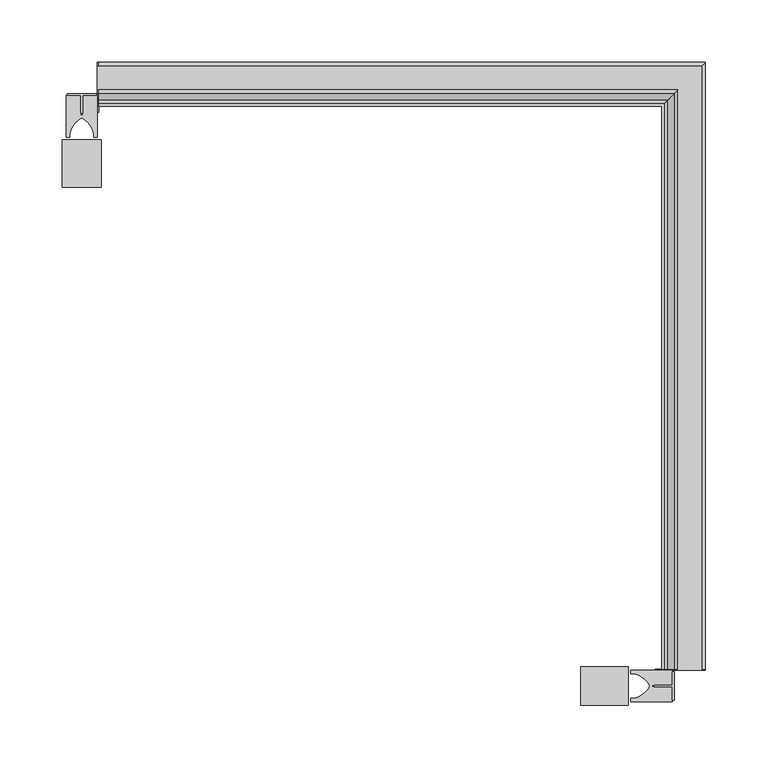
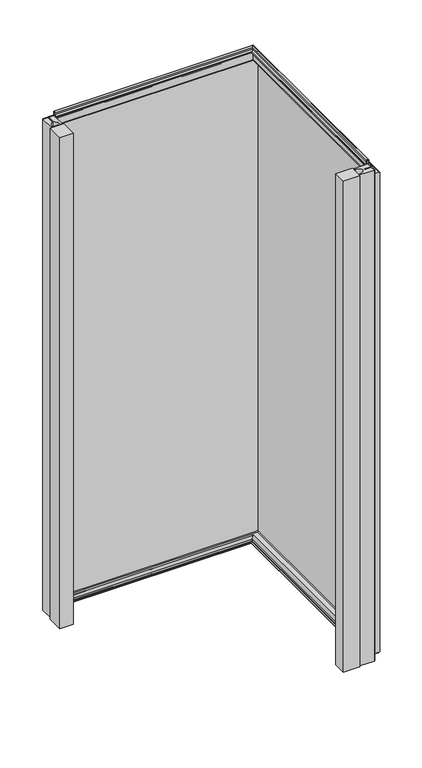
"""IFC4 building model written with IfcOpenShell, lengths in millimetres: plate geometry, Угловой модуль Fronttop : Угловой модуль Fronttop 100/1200."""

from ifc_helpers import new_model, si_unit, point, frame, frame_2d, origin, origin_with_axes, place, context, project, spatial, polyline, circle_curve, ellipse_curve, trimmed, segment, composite_curve, outline, extrude, source, transform, mapped, element, save
from ifc_brep_helpers import plane_surface, cylinder_surface, revolved_surface, advanced_brep


def plate_6557afd7(model_context):
    return source(origin(), model_context, "Body", "SolidModel", [
        extrude(outline(polyline([(225.0, -388.4948846), (225.0, -411.5051154), (223.5, -411.5051154), (223.5, -400.6502496), (209.0759655, -400.6502496), (209.0759655, -399.35), (223.5, -399.35), (223.5, -388.4948846), (225.0, -388.4948846)])), origin_with_axes(), (0.0, 0.0, 1.0), 1200.0),
        extrude(outline(composite_curve([segment(polyline([(223.5, -387.4998455), (223.5, -399.25), (207.5, -399.25), (207.5, -400.75), (223.5, -400.75), (223.5, -412.5001545), (190.0, -412.5001545), (190.0, -409.75), (192.5, -409.75)]), True, "CONTINUOUS"), segment(trimmed(circle_curve(frame_2d((189.3183984, -391.9661979)), 18.0661619), [point((192.5, -409.75))], [point((205.5, -400.0))], True, "CARTESIAN"), True, "CONTINUOUS"), segment(trimmed(circle_curve(frame_2d((189.3183984, -408.0338021)), 18.0661619), [point((205.5, -400.0))], [point((192.5, -390.25))], True, "CARTESIAN"), True, "CONTINUOUS"), segment(polyline([(192.5, -390.25), (190.0, -390.25), (190.0, -387.4998455), (223.5, -387.4998455)]), True, "CONTINUOUS")], self_intersect=False)), origin_with_axes(), (0.0, 0.0, 1.0), 1200.0),
        extrude(outline(polyline([(150.0, -415.5), (150.0, -384.5), (188.0, -384.5), (188.0, -415.5), (150.0, -415.5)])), origin_with_axes(), (0.0, 0.0, 1.0), 1200.0),
        extrude(outline(polyline([(-261.5051154, 75.0), (-238.4948846, 75.0), (-238.4948846, 73.5), (-249.3497504, 73.5), (-249.3497504, 59.0759655), (-250.65, 59.0759655), (-250.65, 73.5), (-261.5051154, 73.5), (-261.5051154, 75.0)])), origin_with_axes(), (0.0, 0.0, 1.0), 1200.0),
        extrude(outline(composite_curve([segment(polyline([(-262.5001545, 73.5), (-250.75, 73.5), (-250.75, 57.5), (-249.25, 57.5), (-249.25, 73.5), (-237.4998455, 73.5), (-237.4998455, 40.0), (-240.25, 40.0), (-240.25, 42.5)]), True, "CONTINUOUS"), segment(trimmed(circle_curve(frame_2d((-258.0338021, 39.3183984)), 18.0661619), [point((-240.25, 42.5))], [point((-250.0, 55.5))], True, "CARTESIAN"), True, "CONTINUOUS"), segment(trimmed(circle_curve(frame_2d((-241.9661979, 39.3183984)), 18.0661619), [point((-250.0, 55.5))], [point((-259.75, 42.5))], True, "CARTESIAN"), True, "CONTINUOUS"), segment(polyline([(-259.75, 42.5), (-259.75, 40.0), (-262.5001545, 40.0), (-262.5001545, 73.5)]), True, "CONTINUOUS")], self_intersect=False)), origin_with_axes(), (0.0, 0.0, 1.0), 1200.0),
        extrude(outline(polyline([(-234.5, 0.0), (-265.5, 0.0), (-265.5, 38.0), (-234.5, 38.0), (-234.5, 0.0)])), origin_with_axes(), (0.0, 0.0, 1.0), 1200.0),
        advanced_brep(
        [(-236.5, 74.0, 1208.0), (-236.5, 71.0, 1208.0), (-236.5, 71.0, 1204.0), (-236.5, 67.0, 1200.0), (-236.5, 65.0, 1200.0), (-236.5, 65.0, 1201.0), (-236.5, 67.0, 1201.0), (-236.5, 70.0, 1204.0), (-236.5, 70.0, 1208.0), (-236.5, 75.0, 1208.0), (-236.5, 75.0, 1200.0), (-236.5, 74.0, 1200.0), (-236.5, 65.0, 2.0), (215.0, 65.0, 2.0), (215.0, 65.0, 3.0), (-236.5, 65.0, 3.0), (215.0, -386.5, 3.0), (217.0, -386.5, 3.0), (217.0, 67.0, 3.0), (-236.5, 67.0, 3.0), (218.0, 68.0, 4.0), (-236.5, 68.0, 4.0), (218.0, 68.0, 8.0), (-236.5, 68.0, 8.0), (227.0, 77.0, 8.0), (-236.5, 77.0, 8.0), (227.0, 77.0, 0.0), (-236.5, 77.0, 0.0), (229.0, 79.0, -2.0), (-236.5, 79.0, -2.0), (229.0, -386.5, -2.0), (247.0, -386.5, -2.0), (247.0, 97.0, -2.0), (-236.5, 97.0, -2.0), (249.0, 99.0, 0.0), (-236.5, 99.0, 0.0), (249.0, 99.0, 1169.0), (-236.5, 99.0, 1169.0), (247.0, 97.0, 1171.0), (-236.5, 97.0, 1171.0), (247.0, -386.5, 1171.0), (228.0, -386.5, 1171.0), (228.0, 78.0, 1171.0), (-236.5, 78.0, 1171.0), (224.0, 74.0, 1175.0), (-236.5, 74.0, 1175.0), (224.0, 74.0, 1208.0), (221.0, 71.0, 1208.0), (221.0, 71.0, 1204.0), (217.0, 67.0, 1200.0), (217.0, -386.5, 1200.0), (215.0, -386.5, 1200.0), (215.0, 65.0, 1200.0), (215.0, 65.0, 1201.0), (215.0, -386.5, 1201.0), (217.0, -386.5, 1201.0), (217.0, 67.0, 1201.0), (220.0, 70.0, 1204.0), (220.0, 70.0, 1208.0), (225.0, 75.0, 1208.0), (225.0, 75.0, 1175.0), (-236.5, 75.0, 1175.0), (-237.5, 75.0, 1175.0), (-237.5, 75.0, 1200.0), (228.0, 78.0, 1172.0), (-236.5, 78.0, 1172.0), (228.0, -386.5, 1172.0), (228.0, -387.5, 1172.0), (247.0, -387.5, 1172.0), (247.0, -386.5, 1172.0), (247.0, 97.0, 1172.0), (-236.5, 97.0, 1172.0), (-237.5, 97.0, 1172.0), (-237.5, 78.0, 1172.0), (250.0, 100.0, 1169.0), (-236.5, 100.0, 1169.0), (250.0, 100.0, 0.0), (-236.5, 100.0, 0.0), (-237.5, 100.0, 0.0), (-237.5, 100.0, 1169.0), (247.0, 97.0, -3.0), (-236.5, 97.0, -3.0), (247.0, -386.5, -3.0), (247.0, -387.5, -3.0), (225.0, -387.5, -3.0), (225.0, -386.5, -3.0), (229.0, -386.5, -3.0), (229.0, 79.0, -3.0), (-236.5, 79.0, -3.0), (-236.5, 75.0, -3.0), (-237.5, 75.0, -3.0), (-237.5, 97.0, -3.0), (226.0, 76.0, 0.0), (-236.5, 76.0, 0.0), (226.0, 76.0, 8.0), (-236.5, 76.0, 8.0), (219.0, 69.0, 8.0), (-236.5, 69.0, 8.0), (219.0, 69.0, 4.0), (-236.5, 69.0, 4.0), (217.0, 67.0, 2.0), (-236.5, 67.0, 2.0), (217.0, -386.5, 2.0), (215.0, -386.5, 2.0), (221.0, -386.5, 1204.0), (221.0, -386.5, 1208.0), (224.0, -386.5, 1208.0), (224.0, -386.5, 1200.0), (225.0, -386.5, 1200.0), (225.0, -386.5, 1208.0), (220.0, -386.5, 1208.0), (220.0, -386.5, 1204.0), (218.0, -386.5, 4.0), (218.0, -386.5, 8.0), (227.0, -386.5, 8.0), (227.0, -386.5, 0.0), (249.0, -386.5, 0.0), (249.0, -386.5, 1169.0), (224.0, -386.5, 1175.0), (225.0, -387.5, 1200.0), (225.0, -387.5, 1175.0), (225.0, -386.5, 1175.0), (250.0, -386.5, 1169.0), (250.0, -387.5, 1169.0), (250.0, -387.5, 0.0), (250.0, -386.5, 0.0), (226.0, -386.5, 0.0), (226.0, -386.5, 8.0), (219.0, -386.5, 8.0), (219.0, -386.5, 4.0), (-236.5, 60.0, 1200.0), (-236.5, 60.0, 0.0), (-236.5, 75.0, 0.0), (-237.5, 75.0, 0.0), (-237.5, 60.0, 0.0), (-237.5, 60.0, 1200.0), (210.0, -386.5, 0.0), (210.0, -386.5, 1200.0), (225.0, -386.5, 0.0), (210.0, -387.5, 0.0), (225.0, -387.5, 0.0), (210.0, -387.5, 1200.0)],
        [
            (0, 1, circle_curve(frame((-236.5, 72.5, 1208.0), z_axis=(1.0, 0.0, 0.0), x_axis=(0.0, -1.0, 0.0)), 1.5)),
            (1, 2),
            (2, 3, circle_curve(frame((-236.5, 67.0, 1204.0), z_axis=(-1.0, 0.0, 0.0), x_axis=(0.0, -1.0, 0.0)), 4.0)),
            (3, 4),
            (4, 5),
            (5, 6),
            (6, 7, circle_curve(frame((-236.5, 67.0, 1204.0), z_axis=(1.0, 0.0, 0.0), x_axis=(0.0, -1.0, 0.0)), 3.0)),
            (7, 8),
            (8, 9, circle_curve(frame((-236.5, 72.5, 1208.0), z_axis=(-1.0, 0.0, 0.0), x_axis=(0.0, -1.0, 0.0)), 2.5)),
            (9, 10),
            (10, 11),
            (11, 0),
            (12, 13),
            (13, 14),
            (14, 15),
            (15, 12),
            (14, 16),
            (16, 17),
            (17, 18),
            (18, 19),
            (19, 15),
            (18, 20, ellipse_curve(frame((217.0, 67.0, 4.0), z_axis=(0.7071067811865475, -0.7071067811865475, 0.0), x_axis=(0.7071067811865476, 0.7071067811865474, 0.0)), 1.4142136, 1.0)),
            (20, 21),
            (21, 19, circle_curve(frame((-236.5, 67.0, 4.0), z_axis=(-1.0, 0.0, 0.0), x_axis=(0.0, -1.0, 0.0)), 1.0)),
            (20, 22),
            (22, 23),
            (23, 21),
            (22, 24, ellipse_curve(frame((222.5, 72.5, 8.0), z_axis=(-0.7071067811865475, 0.7071067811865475, 0.0), x_axis=(-0.7071067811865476, -0.7071067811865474, 0.0)), 6.363961, 4.5)),
            (24, 25),
            (25, 23, circle_curve(frame((-236.5, 72.5, 8.0), z_axis=(1.0, 0.0, 0.0), x_axis=(0.0, -1.0, 0.0)), 4.5)),
            (24, 26),
            (26, 27),
            (27, 25),
            (26, 28, ellipse_curve(frame((229.0, 79.0, 0.0), z_axis=(0.7071067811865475, -0.7071067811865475, 0.0), x_axis=(0.7071067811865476, 0.7071067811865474, 0.0)), 2.8284271, 2.0)),
            (28, 29),
            (29, 27, circle_curve(frame((-236.5, 79.0, 0.0), z_axis=(-1.0, 0.0, 0.0), x_axis=(0.0, -1.0, 0.0)), 2.0)),
            (28, 30),
            (30, 31),
            (31, 32),
            (32, 33),
            (33, 29),
            (32, 34, ellipse_curve(frame((247.0, 97.0, 0.0), z_axis=(0.7071067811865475, -0.7071067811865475, 0.0), x_axis=(0.7071067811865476, 0.7071067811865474, 0.0)), 2.8284271, 2.0)),
            (34, 35),
            (35, 33, circle_curve(frame((-236.5, 97.0, 0.0), z_axis=(-1.0, 0.0, 0.0), x_axis=(0.0, -1.0, 0.0)), 2.0)),
            (34, 36),
            (36, 37),
            (37, 35),
            (36, 38, ellipse_curve(frame((247.0, 97.0, 1169.0), z_axis=(0.7071067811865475, -0.7071067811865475, 0.0), x_axis=(0.7071067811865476, 0.7071067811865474, 0.0)), 2.8284271, 2.0)),
            (38, 39),
            (39, 37, circle_curve(frame((-236.5, 97.0, 1169.0), z_axis=(-1.0, 0.0, 0.0), x_axis=(0.0, -1.0, 0.0)), 2.0)),
            (38, 40),
            (40, 41),
            (41, 42),
            (42, 43),
            (43, 39),
            (42, 44, ellipse_curve(frame((228.0, 78.0, 1175.0), z_axis=(-0.7071067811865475, 0.7071067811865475, 0.0), x_axis=(-0.7071067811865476, -0.7071067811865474, 0.0)), 5.6568542, 4.0)),
            (44, 45),
            (45, 43, circle_curve(frame((-236.5, 78.0, 1175.0), z_axis=(1.0, 0.0, 0.0), x_axis=(0.0, -1.0, 0.0)), 4.0)),
            (44, 46),
            (46, 0),
            (11, 45),
            (46, 47, ellipse_curve(frame((222.5, 72.5, 1208.0), z_axis=(0.7071067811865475, -0.7071067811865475, 0.0), x_axis=(0.7071067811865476, 0.7071067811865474, 0.0)), 2.1213203, 1.5)),
            (47, 1),
            (47, 48),
            (48, 2),
            (48, 49, ellipse_curve(frame((217.0, 67.0, 1204.0), z_axis=(-0.7071067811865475, 0.7071067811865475, 0.0), x_axis=(-0.7071067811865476, -0.7071067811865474, 0.0)), 5.6568542, 4.0)),
            (49, 3),
            (49, 50),
            (50, 51),
            (51, 52),
            (52, 4),
            (4, 3),
            (52, 53),
            (53, 5),
            (53, 54),
            (54, 55),
            (55, 56),
            (56, 6),
            (56, 57, ellipse_curve(frame((217.0, 67.0, 1204.0), z_axis=(0.7071067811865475, -0.7071067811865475, 0.0), x_axis=(0.7071067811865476, 0.7071067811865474, 0.0)), 4.2426407, 3.0)),
            (57, 7),
            (57, 58),
            (58, 8),
            (58, 59, ellipse_curve(frame((222.5, 72.5, 1208.0), z_axis=(-0.7071067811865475, 0.7071067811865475, 0.0), x_axis=(-0.7071067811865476, -0.7071067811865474, 0.0)), 3.5355339, 2.5)),
            (59, 9),
            (59, 60),
            (60, 61),
            (61, 62),
            (62, 63),
            (63, 10),
            (60, 64, ellipse_curve(frame((228.0, 78.0, 1175.0), z_axis=(0.7071067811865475, -0.7071067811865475, 0.0), x_axis=(0.7071067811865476, 0.7071067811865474, 0.0)), 4.2426407, 3.0)),
            (64, 65),
            (65, 61, circle_curve(frame((-236.5, 78.0, 1175.0), z_axis=(-1.0, 0.0, 0.0), x_axis=(0.0, -1.0, 0.0)), 3.0)),
            (64, 66),
            (66, 67),
            (67, 68),
            (68, 69),
            (69, 70),
            (70, 71),
            (71, 72),
            (72, 73),
            (73, 65),
            (70, 74, ellipse_curve(frame((247.0, 97.0, 1169.0), z_axis=(-0.7071067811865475, 0.7071067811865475, 0.0), x_axis=(-0.7071067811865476, -0.7071067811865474, 0.0)), 4.2426407, 3.0)),
            (74, 75),
            (75, 71, circle_curve(frame((-236.5, 97.0, 1169.0), z_axis=(1.0, 0.0, 0.0), x_axis=(0.0, -1.0, 0.0)), 3.0)),
            (74, 76),
            (76, 77),
            (77, 78),
            (78, 79),
            (79, 75),
            (76, 80, ellipse_curve(frame((247.0, 97.0, 0.0), z_axis=(-0.7071067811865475, 0.7071067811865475, 0.0), x_axis=(-0.7071067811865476, -0.7071067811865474, 0.0)), 4.2426407, 3.0)),
            (80, 81),
            (81, 77, circle_curve(frame((-236.5, 97.0, 0.0), z_axis=(1.0, 0.0, 0.0), x_axis=(0.0, -1.0, 0.0)), 3.0)),
            (80, 82),
            (82, 83),
            (83, 84),
            (84, 85),
            (85, 86),
            (86, 87),
            (87, 88),
            (88, 89),
            (89, 90),
            (90, 91),
            (91, 81),
            (87, 92, ellipse_curve(frame((229.0, 79.0, 0.0), z_axis=(-0.7071067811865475, 0.7071067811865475, 0.0), x_axis=(-0.7071067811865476, -0.7071067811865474, 0.0)), 4.2426407, 3.0)),
            (92, 93),
            (93, 88, circle_curve(frame((-236.5, 79.0, 0.0), z_axis=(1.0, 0.0, 0.0), x_axis=(0.0, -1.0, 0.0)), 3.0)),
            (92, 94),
            (94, 95),
            (95, 93),
            (94, 96, ellipse_curve(frame((222.5, 72.5, 8.0), z_axis=(0.7071067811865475, -0.7071067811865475, 0.0), x_axis=(0.7071067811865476, 0.7071067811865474, 0.0)), 4.9497475, 3.5)),
            (96, 97),
            (97, 95, circle_curve(frame((-236.5, 72.5, 8.0), z_axis=(-1.0, 0.0, 0.0), x_axis=(0.0, -1.0, 0.0)), 3.5)),
            (96, 98),
            (98, 99),
            (99, 97),
            (98, 100, ellipse_curve(frame((217.0, 67.0, 4.0), z_axis=(-0.7071067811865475, 0.7071067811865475, 0.0), x_axis=(-0.7071067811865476, -0.7071067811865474, 0.0)), 2.8284271, 2.0)),
            (100, 101),
            (101, 99, circle_curve(frame((-236.5, 67.0, 4.0), z_axis=(1.0, 0.0, 0.0), x_axis=(0.0, -1.0, 0.0)), 2.0)),
            (12, 101),
            (100, 102),
            (102, 103),
            (103, 13),
            (54, 51),
            (51, 50),
            (50, 104, circle_curve(frame((217.0, -386.5, 1204.0), z_axis=(0.0, -1.0, 0.0), x_axis=(-1.0, 0.0, 0.0)), 4.0)),
            (104, 105),
            (105, 106, circle_curve(frame((222.5, -386.5, 1208.0), z_axis=(0.0, 1.0, 0.0), x_axis=(-1.0, 0.0, 0.0)), 1.5)),
            (106, 107),
            (107, 108),
            (108, 109),
            (109, 110, circle_curve(frame((222.5, -386.5, 1208.0), z_axis=(0.0, -1.0, 0.0), x_axis=(-1.0, 0.0, 0.0)), 2.5)),
            (110, 111),
            (111, 55, circle_curve(frame((217.0, -386.5, 1204.0), z_axis=(0.0, 1.0, 0.0), x_axis=(-1.0, 0.0, 0.0)), 3.0)),
            (103, 16),
            (17, 112, circle_curve(frame((217.0, -386.5, 4.0), z_axis=(0.0, -1.0, 0.0), x_axis=(-1.0, 0.0, 0.0)), 1.0)),
            (112, 20),
            (112, 113),
            (113, 22),
            (113, 114, circle_curve(frame((222.5, -386.5, 8.0), z_axis=(0.0, 1.0, 0.0), x_axis=(-1.0, 0.0, 0.0)), 4.5)),
            (114, 24),
            (114, 115),
            (115, 26),
            (115, 30, circle_curve(frame((229.0, -386.5, 0.0), z_axis=(0.0, -1.0, 0.0), x_axis=(-1.0, 0.0, 0.0)), 2.0)),
            (31, 116, circle_curve(frame((247.0, -386.5, 0.0), z_axis=(0.0, -1.0, 0.0), x_axis=(-1.0, 0.0, 0.0)), 2.0)),
            (116, 34),
            (116, 117),
            (117, 36),
            (117, 40, circle_curve(frame((247.0, -386.5, 1169.0), z_axis=(0.0, -1.0, 0.0), x_axis=(-1.0, 0.0, 0.0)), 2.0)),
            (41, 118, circle_curve(frame((228.0, -386.5, 1175.0), z_axis=(0.0, 1.0, 0.0), x_axis=(-1.0, 0.0, 0.0)), 4.0)),
            (118, 44),
            (118, 107),
            (106, 46),
            (105, 47),
            (104, 48),
            (111, 57),
            (110, 58),
            (109, 59),
            (108, 119),
            (119, 120),
            (120, 121),
            (121, 60),
            (121, 66, circle_curve(frame((228.0, -386.5, 1175.0), z_axis=(0.0, -1.0, 0.0), x_axis=(-1.0, 0.0, 0.0)), 3.0)),
            (69, 122, circle_curve(frame((247.0, -386.5, 1169.0), z_axis=(0.0, 1.0, 0.0), x_axis=(-1.0, 0.0, 0.0)), 3.0)),
            (122, 74),
            (122, 123),
            (123, 124),
            (124, 125),
            (125, 76),
            (125, 82, circle_curve(frame((247.0, -386.5, 0.0), z_axis=(0.0, 1.0, 0.0), x_axis=(-1.0, 0.0, 0.0)), 3.0)),
            (86, 126, circle_curve(frame((229.0, -386.5, 0.0), z_axis=(0.0, 1.0, 0.0), x_axis=(-1.0, 0.0, 0.0)), 3.0)),
            (126, 92),
            (126, 127),
            (127, 94),
            (127, 128, circle_curve(frame((222.5, -386.5, 8.0), z_axis=(0.0, -1.0, 0.0), x_axis=(-1.0, 0.0, 0.0)), 3.5)),
            (128, 96),
            (128, 129),
            (129, 98),
            (129, 102, circle_curve(frame((217.0, -386.5, 4.0), z_axis=(0.0, 1.0, 0.0), x_axis=(-1.0, 0.0, 0.0)), 2.0)),
            (130, 131),
            (131, 132),
            (132, 89),
            (11, 3),
            (4, 130),
            (62, 73, circle_curve(frame((-237.5, 78.0, 1175.0), z_axis=(1.0, 0.0, 0.0), x_axis=(0.0, 1.0, 0.0)), 3.0)),
            (72, 79, circle_curve(frame((-237.5, 97.0, 1169.0), z_axis=(-1.0, 0.0, 0.0), x_axis=(0.0, 1.0, 0.0)), 3.0)),
            (78, 91, circle_curve(frame((-237.5, 97.0, 0.0), z_axis=(-1.0, 0.0, 0.0), x_axis=(0.0, 1.0, 0.0)), 3.0)),
            (90, 133),
            (133, 134),
            (134, 135),
            (135, 63),
            (135, 130),
            (134, 131),
            (133, 132),
            (136, 137),
            (137, 51),
            (50, 107),
            (85, 138),
            (138, 136),
            (139, 140),
            (140, 84),
            (83, 124, circle_curve(frame((247.0, -387.5, 0.0), z_axis=(0.0, -1.0, 0.0), x_axis=(-1.0, 0.0, 0.0)), 3.0)),
            (123, 68, circle_curve(frame((247.0, -387.5, 1169.0), z_axis=(0.0, -1.0, 0.0), x_axis=(-1.0, 0.0, 0.0)), 3.0)),
            (67, 120, circle_curve(frame((228.0, -387.5, 1175.0), z_axis=(0.0, 1.0, 0.0), x_axis=(-1.0, 0.0, 0.0)), 3.0)),
            (119, 141),
            (141, 139),
            (138, 140),
            (139, 136),
            (137, 141),
        ],
        [
            plane_surface(frame((-236.5, 0.0, 0.0), z_axis=(-1.0, 0.0, 0.0), x_axis=(0.0, 0.0, 1.0))),
            plane_surface(frame((-236.5, 65.0, 2.0), z_axis=(0.0, -1.0, 0.0), x_axis=(1.0, 0.0, 0.0))),
            plane_surface(frame((-236.5, 65.0, 3.0), z_axis=(0.0, 0.0, 1.0), x_axis=(1.0, 0.0, 0.0))),
            revolved_surface(polyline([(218.00000002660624, 66.0, 4.0), (-236.5, 66.0, 4.0)]), (-236.5, 67.0, 4.0), (1.0, 0.0, 0.0)),
            plane_surface(frame((-236.5, 68.0, 4.0), z_axis=(0.0, -1.0, 0.0), x_axis=(1.0, 0.0, 0.0))),
            cylinder_surface(frame((-236.5, 72.5, 8.0), z_axis=(-1.0, 0.0, 0.0), x_axis=(0.0, -1.0, 0.0)), 4.5),
            plane_surface(frame((-236.5, 77.0, 8.0), z_axis=(0.0, 1.0, 0.0), x_axis=(1.0, 0.0, 0.0))),
            revolved_surface(polyline([(230.99999998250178, 77.0, 0.0), (-236.5, 77.0, 0.0)]), (-236.5, 79.0, 0.0), (1.0, 0.0, 0.0)),
            plane_surface(frame((-236.5, 79.0, -2.0), z_axis=(0.0, 0.0, 1.0), x_axis=(1.0, 0.0, 0.0))),
            revolved_surface(polyline([(249.0, 95.0, 0.0), (-236.5, 95.0, 0.0)]), (-236.5, 97.0, 0.0), (1.0, 0.0, 0.0)),
            plane_surface(frame((-236.5, 99.0, 0.0), z_axis=(0.0, -1.0, 0.0), x_axis=(1.0, 0.0, 0.0))),
            revolved_surface(polyline([(249.0, 95.0, 1169.0), (-236.5, 95.0, 1169.0)]), (-236.5, 97.0, 1169.0), (1.0, 0.0, 0.0)),
            plane_surface(frame((-236.5, 97.0, 1171.0), z_axis=(0.0, 0.0, -1.0), x_axis=(1.0, 0.0, 0.0))),
            cylinder_surface(frame((-236.5, 78.0, 1175.0), z_axis=(-1.0, 0.0, 0.0), x_axis=(0.0, -1.0, 0.0)), 4.0),
            plane_surface(frame((-236.5, 74.0, 1175.0), z_axis=(0.0, -1.0, 0.0), x_axis=(1.0, 0.0, 0.0))),
            revolved_surface(polyline([(224.0, 71.0, 1208.0), (-236.5, 71.0, 1208.0)]), (-236.5, 72.5, 1208.0), (1.0, 0.0, 0.0)),
            plane_surface(frame((-236.5, 71.0, 1208.0), z_axis=(0.0, 1.0, 0.0), x_axis=(1.0, 0.0, 0.0))),
            cylinder_surface(frame((-236.5, 67.0, 1204.0), z_axis=(-1.0, 0.0, 0.0), x_axis=(0.0, -1.0, 0.0)), 4.0),
            plane_surface(frame((-236.5, 67.0, 1200.0), z_axis=(0.0, 0.0, -1.0), x_axis=(1.0, 0.0, 0.0))),
            plane_surface(frame((-236.5, 65.0, 1200.0), z_axis=(0.0, -1.0, 0.0), x_axis=(1.0, 0.0, 0.0))),
            plane_surface(frame((-236.5, 65.0, 1201.0), z_axis=(0.0, 0.0, 1.0), x_axis=(1.0, 0.0, 0.0))),
            revolved_surface(polyline([(220.00000000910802, 64.0, 1204.0), (-236.5, 64.0, 1204.0)]), (-236.5, 67.0, 1204.0), (1.0, 0.0, 0.0)),
            plane_surface(frame((-236.5, 70.0, 1204.0), z_axis=(0.0, -1.0, 0.0), x_axis=(1.0, 0.0, 0.0))),
            cylinder_surface(frame((-236.5, 72.5, 1208.0), z_axis=(-1.0, 0.0, 0.0), x_axis=(0.0, -1.0, 0.0)), 2.5),
            plane_surface(frame((-236.5, 75.0, 1208.0), z_axis=(0.0, 1.0, 0.0), x_axis=(1.0, 0.0, 0.0))),
            revolved_surface(polyline([(231.00000000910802, 75.0, 1175.0), (-236.5, 75.0, 1175.0)]), (-236.5, 78.0, 1175.0), (1.0, 0.0, 0.0)),
            plane_surface(frame((-236.5, 78.0, 1172.0), z_axis=(0.0, 0.0, 1.0), x_axis=(1.0, 0.0, 0.0))),
            cylinder_surface(frame((-236.5, 97.0, 1169.0), z_axis=(-1.0, 0.0, 0.0), x_axis=(0.0, -1.0, 0.0)), 3.0),
            plane_surface(frame((-236.5, 100.0, 1169.0), z_axis=(0.0, 1.0, 0.0), x_axis=(1.0, 0.0, 0.0))),
            cylinder_surface(frame((-236.5, 97.0, 0.0), z_axis=(-1.0, 0.0, 0.0), x_axis=(0.0, -1.0, 0.0)), 3.0),
            plane_surface(frame((-236.5, 97.0, -3.0), z_axis=(0.0, 0.0, -1.0), x_axis=(1.0, 0.0, 0.0))),
            cylinder_surface(frame((-236.5, 79.0, 0.0), z_axis=(-1.0, 0.0, 0.0), x_axis=(0.0, -1.0, 0.0)), 3.0),
            plane_surface(frame((-236.5, 76.0, 0.0), z_axis=(0.0, -1.0, 0.0), x_axis=(1.0, 0.0, 0.0))),
            revolved_surface(polyline([(226.00000002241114, 69.0, 8.0), (-236.5, 69.0, 8.0)]), (-236.5, 72.5, 8.0), (1.0, 0.0, 0.0)),
            plane_surface(frame((-236.5, 69.0, 8.0), z_axis=(0.0, 1.0, 0.0), x_axis=(1.0, 0.0, 0.0))),
            cylinder_surface(frame((-236.5, 67.0, 4.0), z_axis=(-1.0, 0.0, 0.0), x_axis=(0.0, -1.0, 0.0)), 2.0),
            plane_surface(frame((-236.5, 67.0, 2.0), z_axis=(0.0, 0.0, -1.0), x_axis=(1.0, 0.0, 0.0))),
            plane_surface(frame((150.0, -386.5, 0.0), z_axis=(0.0, -1.0, 0.0), x_axis=(0.0, 0.0, 1.0))),
            plane_surface(frame((215.0, 65.0, 2.0), z_axis=(-1.0, 0.0, 0.0), x_axis=(0.0, -1.0, 0.0))),
            revolved_surface(polyline([(216.0, -386.5, 4.0), (216.0, 68.00000002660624, 4.0)]), (217.0, 0.0, 4.0), (0.0, -1.0, 0.0)),
            plane_surface(frame((218.0, 68.0, 4.0), z_axis=(-1.0, 0.0, 0.0), x_axis=(0.0, -1.0, 0.0))),
            cylinder_surface(frame((222.5, 0.0, 8.0), z_axis=(0.0, 1.0, 0.0), x_axis=(-1.0, 0.0, 0.0)), 4.5),
            plane_surface(frame((227.0, 77.0, 8.0), z_axis=(1.0, 0.0, 0.0), x_axis=(0.0, -1.0, 0.0))),
            revolved_surface(polyline([(227.0, -386.5, 0.0), (227.0, 80.9999999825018, 0.0)]), (229.0, 0.0, 0.0), (0.0, -1.0, 0.0)),
            revolved_surface(polyline([(245.0, -386.5, 0.0), (245.0, 99.0, 0.0)]), (247.0, 0.0, 0.0), (0.0, -1.0, 0.0)),
            plane_surface(frame((249.0, 99.0, 0.0), z_axis=(-1.0, 0.0, 0.0), x_axis=(0.0, -1.0, 0.0))),
            revolved_surface(polyline([(245.0, -386.5, 1169.0), (245.0, 99.0, 1169.0)]), (247.0, 0.0, 1169.0), (0.0, -1.0, 0.0)),
            cylinder_surface(frame((228.0, 0.0, 1175.0), z_axis=(0.0, 1.0, 0.0), x_axis=(-1.0, 0.0, 0.0)), 4.0),
            plane_surface(frame((224.0, 74.0, 1175.0), z_axis=(-1.0, 0.0, 0.0), x_axis=(0.0, -1.0, 0.0))),
            revolved_surface(polyline([(221.0, -386.5, 1208.0), (221.0, 74.0, 1208.0)]), (222.5, 0.0, 1208.0), (0.0, -1.0, 0.0)),
            plane_surface(frame((221.0, 71.0, 1208.0), z_axis=(1.0, 0.0, 0.0), x_axis=(0.0, -1.0, 0.0))),
            cylinder_surface(frame((217.0, 0.0, 1204.0), z_axis=(0.0, 1.0, 0.0), x_axis=(-1.0, 0.0, 0.0)), 4.0),
            plane_surface(frame((215.0, 65.0, 1200.0), z_axis=(-1.0, 0.0, 0.0), x_axis=(0.0, -1.0, 0.0))),
            revolved_surface(polyline([(214.0, -386.5, 1204.0), (214.0, 70.00000000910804, 1204.0)]), (217.0, 0.0, 1204.0), (0.0, -1.0, 0.0)),
            plane_surface(frame((220.0, 70.0, 1204.0), z_axis=(-1.0, 0.0, 0.0), x_axis=(0.0, -1.0, 0.0))),
            cylinder_surface(frame((222.5, 0.0, 1208.0), z_axis=(0.0, 1.0, 0.0), x_axis=(-1.0, 0.0, 0.0)), 2.5),
            plane_surface(frame((225.0, 75.0, 1208.0), z_axis=(1.0, 0.0, 0.0), x_axis=(0.0, -1.0, 0.0))),
            revolved_surface(polyline([(225.0, -386.5, 1175.0), (225.0, 81.00000000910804, 1175.0)]), (228.0, 0.0, 1175.0), (0.0, -1.0, 0.0)),
            cylinder_surface(frame((247.0, 0.0, 1169.0), z_axis=(0.0, 1.0, 0.0), x_axis=(-1.0, 0.0, 0.0)), 3.0),
            plane_surface(frame((250.0, 100.0, 1169.0), z_axis=(1.0, 0.0, 0.0), x_axis=(0.0, -1.0, 0.0))),
            cylinder_surface(frame((247.0, 0.0, 0.0), z_axis=(0.0, 1.0, 0.0), x_axis=(-1.0, 0.0, 0.0)), 3.0),
            cylinder_surface(frame((229.0, 0.0, 0.0), z_axis=(0.0, 1.0, 0.0), x_axis=(-1.0, 0.0, 0.0)), 3.0),
            plane_surface(frame((226.0, 76.0, 0.0), z_axis=(-1.0, 0.0, 0.0), x_axis=(0.0, -1.0, 0.0))),
            revolved_surface(polyline([(219.0, -386.5, 8.0), (219.0, 76.00000002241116, 8.0)]), (222.5, 0.0, 8.0), (0.0, -1.0, 0.0)),
            plane_surface(frame((219.0, 69.0, 8.0), z_axis=(1.0, 0.0, 0.0), x_axis=(0.0, -1.0, 0.0))),
            cylinder_surface(frame((217.0, 0.0, 4.0), z_axis=(0.0, 1.0, 0.0), x_axis=(-1.0, 0.0, 0.0)), 2.0),
            plane_surface(frame((-236.5, 75.0, 1200.0), z_axis=(1.0, 0.0, 0.0), x_axis=(0.0, -1.0, 0.0))),
            plane_surface(frame((-237.5, 75.0, 1200.0), z_axis=(-1.0, 0.0, 0.0), x_axis=(0.0, 1.0, 0.0))),
            plane_surface(frame((-236.5, 75.0, 1200.0), z_axis=(0.0, 0.0, 1.0), x_axis=(-1.0, 0.0, 0.0))),
            plane_surface(frame((-236.5, 60.0, 1200.0), z_axis=(0.0, -1.0, 0.0), x_axis=(-1.0, 0.0, 0.0))),
            plane_surface(frame((-236.5, 60.0, 0.0), z_axis=(0.0, 0.0, -1.0), x_axis=(-1.0, 0.0, 0.0))),
            plane_surface(frame((-236.5, 75.0, 0.0), z_axis=(0.0, -1.0, 0.0), x_axis=(-1.0, 0.0, 0.0))),
            cylinder_surface(frame((-237.5, 97.0, 0.0), z_axis=(1.0, 0.0, 0.0), x_axis=(0.0, 1.0, 0.0)), 3.0),
            cylinder_surface(frame((-237.5, 97.0, 1169.0), z_axis=(1.0, 0.0, 0.0), x_axis=(0.0, 1.0, 0.0)), 3.0),
            revolved_surface(polyline([(-237.5, 81.0, 1175.0), (-236.5, 81.0, 1175.0)]), (-237.5, 78.0, 1175.0), (-1.0, 0.0, 0.0)),
            plane_surface(frame((210.0, -386.5, 1200.0), z_axis=(0.0, 1.0, 0.0), x_axis=(0.0, 0.0, 1.0))),
            plane_surface(frame((210.0, -387.5, 1200.0), z_axis=(0.0, -1.0, 0.0), x_axis=(0.0, 0.0, -1.0))),
            plane_surface(frame((225.0, -386.5, 0.0), z_axis=(0.0, 0.0, -1.0), x_axis=(0.0, -1.0, 0.0))),
            plane_surface(frame((225.0, -386.5, -3.0), z_axis=(-1.0, 0.0, 0.0), x_axis=(0.0, -1.0, 0.0))),
            cylinder_surface(frame((247.0, -387.5, 0.0), z_axis=(0.0, 1.0, 0.0), x_axis=(-1.0, 0.0, 0.0)), 3.0),
            cylinder_surface(frame((247.0, -387.5, 1169.0), z_axis=(0.0, 1.0, 0.0), x_axis=(-1.0, 0.0, 0.0)), 3.0),
            revolved_surface(polyline([(225.0, -387.5, 1175.0), (225.0, -386.5, 1175.0)]), (228.0, -387.5, 1175.0), (0.0, -1.0, 0.0)),
            plane_surface(frame((210.0, -386.5, 1200.0), z_axis=(0.0, 0.0, 1.0), x_axis=(0.0, -1.0, 0.0))),
            plane_surface(frame((210.0, -386.5, 0.0), z_axis=(-1.0, 0.0, 0.0), x_axis=(0.0, -1.0, 0.0))),
        ],
        [
            (0, [[1, 2, 3, 4, 5, 6, 7, 8, 9, 10, 11, 12]]),
            (1, [[13, 14, 15, 16]]),
            (2, [[-15, 17, 18, 19, 20, 21]]),
            (3, [[-20, 22, 23, 24]]),
            (4, [[-23, 25, 26, 27]]),
            (5, [[-26, 28, 29, 30]]),
            (6, [[-29, 31, 32, 33]]),
            (7, [[-32, 34, 35, 36]]),
            (8, [[-35, 37, 38, 39, 40, 41]]),
            (9, [[-40, 42, 43, 44]]),
            (10, [[-43, 45, 46, 47]]),
            (11, [[-46, 48, 49, 50]]),
            (12, [[-49, 51, 52, 53, 54, 55]]),
            (13, [[-54, 56, 57, 58]]),
            (14, [[-57, 59, 60, -12, 61]]),
            (15, [[-1, -60, 62, 63]]),
            (16, [[-2, -63, 64, 65]]),
            (17, [[-3, -65, 66, 67]]),
            (18, [[-67, 68, 69, 70, 71, 72]]),
            (19, [[-5, -71, 73, 74]]),
            (20, [[-6, -74, 75, 76, 77, 78]]),
            (21, [[-7, -78, 79, 80]]),
            (22, [[-8, -80, 81, 82]]),
            (23, [[-9, -82, 83, 84]]),
            (24, [[-84, 85, 86, 87, 88, 89, -10]]),
            (25, [[-86, 90, 91, 92]]),
            (26, [[-91, 93, 94, 95, 96, 97, 98, 99, 100, 101]]),
            (27, [[-98, 102, 103, 104]]),
            (28, [[-103, 105, 106, 107, 108, 109]]),
            (29, [[-106, 110, 111, 112]]),
            (30, [[-111, 113, 114, 115, 116, 117, 118, 119, 120, 121, 122, 123]]),
            (31, [[-119, 124, 125, 126]]),
            (32, [[-125, 127, 128, 129]]),
            (33, [[-128, 130, 131, 132]]),
            (34, [[-131, 133, 134, 135]]),
            (35, [[-134, 136, 137, 138]]),
            (36, [[-13, 139, -137, 140, 141, 142]]),
            (37, [[-76, 143, 144, 145, 146, 147, 148, 149, 150, 151, 152, 153]]),
            (38, [[-14, -142, 154, -17]]),
            (39, [[-19, 155, 156, -22]]),
            (40, [[-25, -156, 157, 158]]),
            (41, [[-28, -158, 159, 160]]),
            (42, [[-31, -160, 161, 162]]),
            (43, [[-34, -162, 163, -37]]),
            (44, [[-39, 164, 165, -42]]),
            (45, [[-45, -165, 166, 167]]),
            (46, [[-48, -167, 168, -51]]),
            (47, [[-53, 169, 170, -56]]),
            (48, [[-59, -170, 171, -148, 172]]),
            (49, [[-62, -172, -147, 173]]),
            (50, [[-64, -173, -146, 174]]),
            (51, [[-66, -174, -145, -68]]),
            (52, [[-70, -143, -75, -73]]),
            (53, [[-77, -153, 175, -79]]),
            (54, [[-81, -175, -152, 176]]),
            (55, [[-83, -176, -151, 177]]),
            (56, [[-85, -177, -150, 178, 179, 180, 181]]),
            (57, [[-90, -181, 182, -93]]),
            (58, [[-97, 183, 184, -102]]),
            (59, [[-105, -184, 185, 186, 187, 188]]),
            (60, [[-110, -188, 189, -113]]),
            (61, [[-118, 190, 191, -124]]),
            (62, [[-127, -191, 192, 193]]),
            (63, [[-130, -193, 194, 195]]),
            (64, [[-133, -195, 196, 197]]),
            (65, [[-136, -197, 198, -140]]),
            (66, [[199, 200, 201, -120, -126, -129, -132, -135, -138, -139, -16, -21, -24, -27, -30, -33, -36, -41, -44, -47, -50, -55, -58, -61, 202, -72, 203]]),
            (67, [[-88, 204, -100, 205, -108, 206, -122, 207, 208, 209, 210]]),
            (68, [[-210, 211, -203, -4, -202, -11, -89]]),
            (69, [[-199, -211, -209, 212]]),
            (70, [[-200, -212, -208, 213]]),
            (71, [[-201, -213, -207, -121]]),
            (72, [[-206, -107, -112, -123]]),
            (73, [[-205, -99, -104, -109]]),
            (74, [[-204, -87, -92, -101]]),
            (75, [[214, 215, -69, 216, -171, -169, -52, -168, -166, -164, -38, -163, -161, -159, -157, -155, -18, -154, -141, -198, -196, -194, -192, -190, -117, 217, 218]]),
            (76, [[219, 220, -115, 221, -186, 222, -95, 223, -179, 224, 225]]),
            (77, [[-218, 226, -219, 227]]),
            (78, [[-217, -116, -220, -226]]),
            (79, [[-221, -114, -189, -187]]),
            (80, [[-222, -185, -183, -96]]),
            (81, [[-223, -94, -182, -180]]),
            (82, [[-224, -178, -149, -216, -144, -215, 228]]),
            (83, [[-214, -227, -225, -228]]),
        ],
    ),
    ])


if __name__ == "__main__":
    model = new_model("IFC4")
    model_context = context("Model", 3, world=origin())
    ifc_project = project(units=[si_unit("LENGTHUNIT", "METRE", prefix="MILLI")], contexts=[model_context])
    site = spatial("IfcSite", under=ifc_project)
    building = spatial("IfcBuilding", under=site)
    placement = place(None, origin())
    plate_shape = plate_6557afd7(model_context)
    element("IfcPlate", 1, ObjectType="Угловой модуль Fronttop : Угловой модуль Fronttop 100/1200", at=placement, inside=building, context=model_context, shape_type="MappedRepresentation", body=[
        mapped(plate_shape, transform((0.0, 0.0, 0.0), x_axis=(1.0, 0.0, 0.0), y_axis=(0.0, 1.0, 0.0), z_axis=(0.0, 0.0, 1.0))),
    ])
    save(model, "model.ifc")
